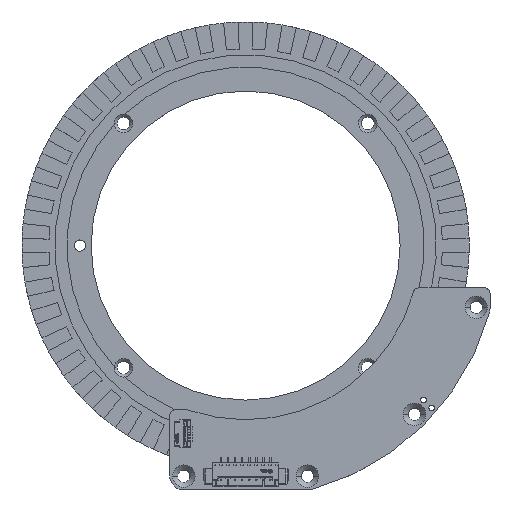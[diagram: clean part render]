
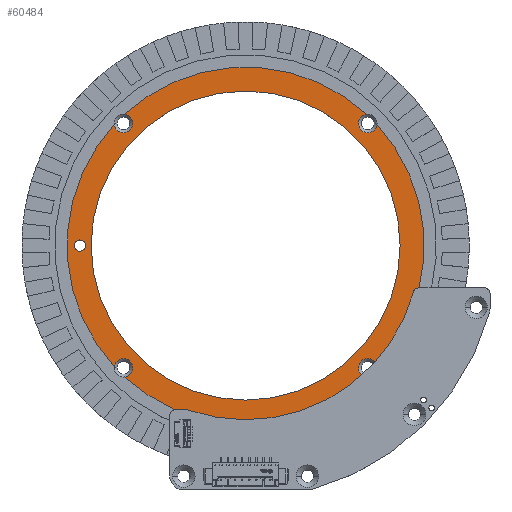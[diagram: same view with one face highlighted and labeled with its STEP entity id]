
A CAD part, top view. The second image highlights one B-rep face of the part: STEP entity #60484.
In plain terms, the highlighted planar face has unit normal (0, 0, 1) as drawn and (0, 1, 0) by its records, which use the part's own axes.
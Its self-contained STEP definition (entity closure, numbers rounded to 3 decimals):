
#56392=CARTESIAN_POINT('',(0.,1.,0.));
#56393=DIRECTION('',(0.,-1.,0.));
#56394=DIRECTION('',(1.,0.,0.));
#56395=AXIS2_PLACEMENT_3D('',#56392,#56393,#56394);
#56397=CARTESIAN_POINT('',(0.,1.,0.));
#56398=DIRECTION('',(0.,-1.,0.));
#56399=DIRECTION('',(-1.,0.,0.));
#56400=AXIS2_PLACEMENT_3D('',#56397,#56398,#56399);
#56786=CARTESIAN_POINT('',(29.5,1.,0.));
#56787=DIRECTION('',(0.,1.,0.));
#56788=DIRECTION('',(1.,0.,0.));
#56789=AXIS2_PLACEMENT_3D('',#56786,#56787,#56788);
#56791=CARTESIAN_POINT('',(29.5,1.,0.));
#56792=DIRECTION('',(0.,1.,0.));
#56793=DIRECTION('',(-1.,0.,0.));
#56794=AXIS2_PLACEMENT_3D('',#56791,#56792,#56793);
#56801=CARTESIAN_POINT('',(21.744,1.,-21.744));
#56802=DIRECTION('',(0.,-1.,0.));
#56803=DIRECTION('',(-1.,0.,0.));
#56804=AXIS2_PLACEMENT_3D('',#56801,#56802,#56803);
#56806=CARTESIAN_POINT('',(21.744,1.,-21.744));
#56807=DIRECTION('',(0.,-1.,0.));
#56808=DIRECTION('',(0.991,0.,0.136));
#56809=AXIS2_PLACEMENT_3D('',#56806,#56807,#56808);
#56811=CARTESIAN_POINT('',(21.744,1.,21.744));
#56812=DIRECTION('',(0.,-1.,0.));
#56813=DIRECTION('',(-1.,0.,0.));
#56814=AXIS2_PLACEMENT_3D('',#56811,#56812,#56813);
#56816=CARTESIAN_POINT('',(21.744,1.,21.744));
#56817=DIRECTION('',(0.,-1.,0.));
#56818=DIRECTION('',(-0.136,0.,0.991));
#56819=AXIS2_PLACEMENT_3D('',#56816,#56817,#56818);
#56821=CARTESIAN_POINT('',(-21.744,1.,21.744));
#56822=DIRECTION('',(0.,-1.,0.));
#56823=DIRECTION('',(1.,0.,0.));
#56824=AXIS2_PLACEMENT_3D('',#56821,#56822,#56823);
#56826=CARTESIAN_POINT('',(-21.744,1.,21.744));
#56827=DIRECTION('',(0.,-1.,0.));
#56828=DIRECTION('',(-0.991,0.,-0.136));
#56829=AXIS2_PLACEMENT_3D('',#56826,#56827,#56828);
#56831=CARTESIAN_POINT('',(-21.744,1.,-21.744));
#56832=DIRECTION('',(0.,-1.,0.));
#56833=DIRECTION('',(1.,0.,0.));
#56834=AXIS2_PLACEMENT_3D('',#56831,#56832,#56833);
#56836=CARTESIAN_POINT('',(-21.744,1.,-21.744));
#56837=DIRECTION('',(0.,-1.,0.));
#56838=DIRECTION('',(0.136,0.,-0.991));
#56839=AXIS2_PLACEMENT_3D('',#56836,#56837,#56838);
#58710=CARTESIAN_POINT('',(0.,1.,0.));
#58711=DIRECTION('',(0.,1.,0.));
#58712=DIRECTION('',(0.677,0.,-0.736));
#58713=AXIS2_PLACEMENT_3D('',#58710,#58711,#58712);
#58764=CARTESIAN_POINT('',(0.,1.,0.));
#58765=DIRECTION('',(0.,1.,0.));
#58766=DIRECTION('',(0.736,0.,0.677));
#58767=AXIS2_PLACEMENT_3D('',#58764,#58765,#58766);
#58818=CARTESIAN_POINT('',(0.,1.,0.));
#58819=DIRECTION('',(0.,1.,0.));
#58820=DIRECTION('',(-0.677,0.,0.736));
#58821=AXIS2_PLACEMENT_3D('',#58818,#58819,#58820);
#58867=CARTESIAN_POINT('',(0.,1.,0.));
#58868=DIRECTION('',(0.,1.,0.));
#58869=DIRECTION('',(-0.736,0.,-0.677));
#58870=AXIS2_PLACEMENT_3D('',#58867,#58868,#58869);
#58937=CARTESIAN_POINT('',(27.505,1.,0.));
#58938=CARTESIAN_POINT('',(-27.505,1.,0.));
#58939=VERTEX_POINT('',#58937);
#58940=VERTEX_POINT('',#58938);
#59487=CARTESIAN_POINT('',(-20.094,1.,
-21.744));
#59488=VERTEX_POINT('',#59487);
#59489=CARTESIAN_POINT('',(20.094,1.,
-21.744));
#59490=VERTEX_POINT('',#59489);
#59491=CARTESIAN_POINT('',(20.094,1.,
21.744));
#59492=VERTEX_POINT('',#59491);
#59493=CARTESIAN_POINT('',(-20.094,1.,
21.744));
#59494=VERTEX_POINT('',#59493);
#59757=CARTESIAN_POINT('',(30.5,1.,0.));
#59758=CARTESIAN_POINT('',(28.5,1.,0.));
#59759=VERTEX_POINT('',#59757);
#59760=VERTEX_POINT('',#59758);
#59777=CARTESIAN_POINT('',(-21.52,1.,-23.378));
#59779=VERTEX_POINT('',#59777);
#59781=CARTESIAN_POINT('',(-23.378,1.,-21.52));
#59782=VERTEX_POINT('',#59781);
#59783=CARTESIAN_POINT('',(23.378,1.,-21.52));
#59785=VERTEX_POINT('',#59783);
#59787=CARTESIAN_POINT('',(21.52,1.,-23.378));
#59788=VERTEX_POINT('',#59787);
#59789=CARTESIAN_POINT('',(21.52,1.,23.378));
#59791=VERTEX_POINT('',#59789);
#59793=CARTESIAN_POINT('',(23.378,1.,21.52));
#59794=VERTEX_POINT('',#59793);
#59795=CARTESIAN_POINT('',(-23.378,1.,21.52));
#59797=VERTEX_POINT('',#59795);
#59799=CARTESIAN_POINT('',(-21.52,1.,23.378));
#59800=VERTEX_POINT('',#59799);
#60441=CARTESIAN_POINT('',(0.,1.,0.));
#60442=DIRECTION('',(0.,1.,0.));
#60443=DIRECTION('',(0.016,0.,-1.));
#60444=AXIS2_PLACEMENT_3D('',#60441,#60442,#60443);
#60445=PLANE('',#60444);
#60447=ORIENTED_EDGE('',*,*,#60446,.F.);
#60449=ORIENTED_EDGE('',*,*,#60448,.F.);
#60451=ORIENTED_EDGE('',*,*,#60450,.F.);
#60453=ORIENTED_EDGE('',*,*,#60452,.F.);
#60455=ORIENTED_EDGE('',*,*,#60454,.F.);
#60457=ORIENTED_EDGE('',*,*,#60456,.F.);
#60459=ORIENTED_EDGE('',*,*,#60458,.F.);
#60461=ORIENTED_EDGE('',*,*,#60460,.F.);
#60463=ORIENTED_EDGE('',*,*,#60462,.F.);
#60465=ORIENTED_EDGE('',*,*,#60464,.F.);
#60467=ORIENTED_EDGE('',*,*,#60466,.F.);
#60469=ORIENTED_EDGE('',*,*,#60468,.F.);
#60470=EDGE_LOOP('',(#60447,#60449,#60451,#60453,#60455,#60457,#60459,#60461,
#60463,#60465,#60467,#60469));
#60471=FACE_OUTER_BOUND('',#60470,.F.);
#60473=ORIENTED_EDGE('',*,*,#60472,.F.);
#60475=ORIENTED_EDGE('',*,*,#60474,.F.);
#60476=EDGE_LOOP('',(#60473,#60475));
#60477=FACE_BOUND('',#60476,.F.);
#60479=ORIENTED_EDGE('',*,*,#60478,.T.);
#60481=ORIENTED_EDGE('',*,*,#60480,.T.);
#60482=EDGE_LOOP('',(#60479,#60481));
#60483=FACE_BOUND('',#60482,.F.);
#60484=ADVANCED_FACE('',(#60471,#60477,#60483),#60445,.T.);
#56396=CIRCLE('',#56395,27.505);
#56401=CIRCLE('',#56400,27.505);
#56790=CIRCLE('',#56789,1.);
#56795=CIRCLE('',#56794,1.);
#56805=CIRCLE('',#56804,1.65);
#56810=CIRCLE('',#56809,1.65);
#56815=CIRCLE('',#56814,1.65);
#56820=CIRCLE('',#56819,1.65);
#56825=CIRCLE('',#56824,1.65);
#56830=CIRCLE('',#56829,1.65);
#56835=CIRCLE('',#56834,1.65);
#56840=CIRCLE('',#56839,1.65);
#58714=CIRCLE('',#58713,31.775);
#58768=CIRCLE('',#58767,31.775);
#58822=CIRCLE('',#58821,31.775);
#58871=CIRCLE('',#58870,31.775);
#60446=EDGE_CURVE('',#59788,#59779,#58714,.T.);
#60448=EDGE_CURVE('',#59490,#59788,#56805,.T.);
#60450=EDGE_CURVE('',#59785,#59490,#56810,.T.);
#60452=EDGE_CURVE('',#59794,#59785,#58768,.T.);
#60454=EDGE_CURVE('',#59492,#59794,#56815,.T.);
#60456=EDGE_CURVE('',#59791,#59492,#56820,.T.);
#60458=EDGE_CURVE('',#59800,#59791,#58822,.T.);
#60460=EDGE_CURVE('',#59494,#59800,#56825,.T.);
#60462=EDGE_CURVE('',#59797,#59494,#56830,.T.);
#60464=EDGE_CURVE('',#59782,#59797,#58871,.T.);
#60466=EDGE_CURVE('',#59488,#59782,#56835,.T.);
#60468=EDGE_CURVE('',#59779,#59488,#56840,.T.);
#60472=EDGE_CURVE('',#58939,#58940,#56396,.T.);
#60474=EDGE_CURVE('',#58940,#58939,#56401,.T.);
#60478=EDGE_CURVE('',#59759,#59760,#56790,.T.);
#60480=EDGE_CURVE('',#59760,#59759,#56795,.T.);
